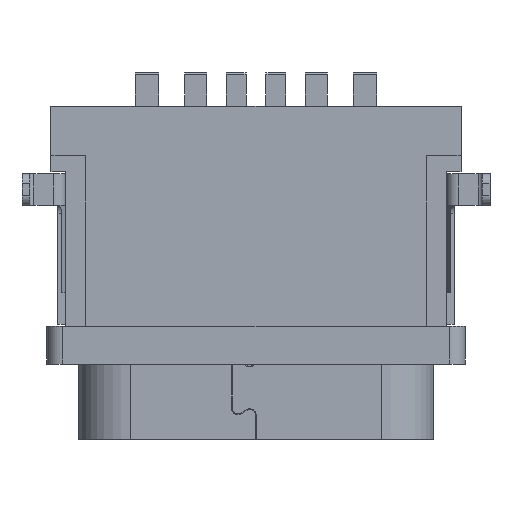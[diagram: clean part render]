
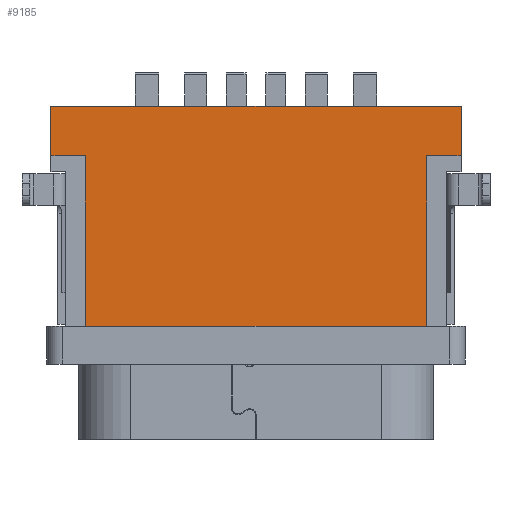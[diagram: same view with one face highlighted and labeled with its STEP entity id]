
A CAD part, front view. The second image highlights one B-rep face of the part: STEP entity #9185.
In plain terms, the highlighted planar face has unit normal (0, -1, 0).
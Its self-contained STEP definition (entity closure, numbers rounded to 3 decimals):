
#850 = DIRECTION ( 'NONE',  ( 0., 0., -1. ) ) ;
#856 = DIRECTION ( 'NONE',  ( 1., 0., 0. ) ) ;
#1059 = LINE ( 'NONE', #24944, #15001 ) ;
#1200 = DIRECTION ( 'NONE',  ( 0., 0., 1. ) ) ;
#1321 = CARTESIAN_POINT ( 'NONE',  ( 15., -2.23, 5.325 ) ) ;
#1373 = VERTEX_POINT ( 'NONE', #16814 ) ;
#2011 = CARTESIAN_POINT ( 'NONE',  ( 20.17, -2.23, 8.4 ) ) ;
#2705 = CARTESIAN_POINT ( 'NONE',  ( 9.83, -2.23, 7.15 ) ) ;
#2957 = DIRECTION ( 'NONE',  ( -1., 0., 0. ) ) ;
#3313 = VERTEX_POINT ( 'NONE', #4492 ) ;
#3697 = ORIENTED_EDGE ( 'NONE', *, *, #23874, .F. ) ;
#4492 = CARTESIAN_POINT ( 'NONE',  ( 9.83, -2.23, 7.15 ) ) ;
#4780 = ORIENTED_EDGE ( 'NONE', *, *, #6343, .T. ) ;
#4903 = LINE ( 'NONE', #15564, #8040 ) ;
#5003 = CARTESIAN_POINT ( 'NONE',  ( 9.83, -2.23, 8.4 ) ) ;
#5271 = VECTOR ( 'NONE', #850, 1000. ) ;
#5586 = ORIENTED_EDGE ( 'NONE', *, *, #6981, .T. ) ;
#5763 = EDGE_CURVE ( 'NONE', #14236, #9296, #4903, .T. ) ;
#5811 = VECTOR ( 'NONE', #9340, 1000. ) ;
#6343 = EDGE_CURVE ( 'NONE', #8305, #1373, #26903, .T. ) ;
#6981 = EDGE_CURVE ( 'NONE', #1373, #24496, #7070, .T. ) ;
#7070 = LINE ( 'NONE', #15741, #5811 ) ;
#7078 = CARTESIAN_POINT ( 'NONE',  ( 19.3, -2.23, 2.85 ) ) ;
#7225 = VECTOR ( 'NONE', #26134, 1000. ) ;
#7420 = CARTESIAN_POINT ( 'NONE',  ( 19.3, -2.23, 2.85 ) ) ;
#8040 = VECTOR ( 'NONE', #24794, 1000. ) ;
#8305 = VERTEX_POINT ( 'NONE', #14029 ) ;
#8496 = VECTOR ( 'NONE', #2957, 1000. ) ;
#8787 = LINE ( 'NONE', #17457, #7225 ) ;
#9185 = ADVANCED_FACE ( 'NONE', ( #21329 ), #23466, .T. ) ;
#9296 = VERTEX_POINT ( 'NONE', #2011 ) ;
#9340 = DIRECTION ( 'NONE',  ( 1., 0., 0. ) ) ;
#9452 = EDGE_CURVE ( 'NONE', #3313, #19553, #22445, .T. ) ;
#9555 = ORIENTED_EDGE ( 'NONE', *, *, #9452, .T. ) ;
#9878 = AXIS2_PLACEMENT_3D ( 'NONE', #1321, #9975, #18647 ) ;
#9975 = DIRECTION ( 'NONE',  ( 0., -1., 0. ) ) ;
#11070 = EDGE_CURVE ( 'NONE', #9296, #24496, #8787, .T. ) ;
#12225 = EDGE_CURVE ( 'NONE', #8305, #26034, #26979, .T. ) ;
#13033 = VECTOR ( 'NONE', #856, 1000. ) ;
#14029 = CARTESIAN_POINT ( 'NONE',  ( 19.3, -2.23, 2.85 ) ) ;
#14236 = VERTEX_POINT ( 'NONE', #5003 ) ;
#14502 = ORIENTED_EDGE ( 'NONE', *, *, #16090, .T. ) ;
#14620 = ORIENTED_EDGE ( 'NONE', *, *, #12225, .F. ) ;
#14876 = VECTOR ( 'NONE', #16097, 1000. ) ;
#15001 = VECTOR ( 'NONE', #1200, 1000. ) ;
#15564 = CARTESIAN_POINT ( 'NONE',  ( 9.83, -2.23, 8.4 ) ) ;
#15741 = CARTESIAN_POINT ( 'NONE',  ( 19.3, -2.23, 7.15 ) ) ;
#16090 = EDGE_CURVE ( 'NONE', #19553, #26034, #26720, .T. ) ;
#16097 = DIRECTION ( 'NONE',  ( 0., 0., 1. ) ) ;
#16814 = CARTESIAN_POINT ( 'NONE',  ( 19.3, -2.23, 7.15 ) ) ;
#17457 = CARTESIAN_POINT ( 'NONE',  ( 20.17, -2.23, 8.4 ) ) ;
#18647 = DIRECTION ( 'NONE',  ( 0., 0., -1. ) ) ;
#19187 = ORIENTED_EDGE ( 'NONE', *, *, #11070, .F. ) ;
#19553 = VERTEX_POINT ( 'NONE', #27911 ) ;
#21256 = EDGE_LOOP ( 'NONE', ( #9555, #14502, #14620, #4780, #5586, #19187, #27301, #3697 ) ) ;
#21329 = FACE_OUTER_BOUND ( 'NONE', #21256, .T. ) ;
#22445 = LINE ( 'NONE', #2705, #13033 ) ;
#23466 = PLANE ( 'NONE',  #9878 ) ;
#23874 = EDGE_CURVE ( 'NONE', #3313, #14236, #1059, .T. ) ;
#24496 = VERTEX_POINT ( 'NONE', #24973 ) ;
#24582 = CARTESIAN_POINT ( 'NONE',  ( 10.7, -2.23, 7.15 ) ) ;
#24794 = DIRECTION ( 'NONE',  ( 1., 0., 0. ) ) ;
#24944 = CARTESIAN_POINT ( 'NONE',  ( 9.83, -2.23, 7.15 ) ) ;
#24973 = CARTESIAN_POINT ( 'NONE',  ( 20.17, -2.23, 7.15 ) ) ;
#26034 = VERTEX_POINT ( 'NONE', #26807 ) ;
#26134 = DIRECTION ( 'NONE',  ( 0., 0., -1. ) ) ;
#26720 = LINE ( 'NONE', #24582, #5271 ) ;
#26807 = CARTESIAN_POINT ( 'NONE',  ( 10.7, -2.23, 2.85 ) ) ;
#26903 = LINE ( 'NONE', #7420, #14876 ) ;
#26979 = LINE ( 'NONE', #7078, #8496 ) ;
#27301 = ORIENTED_EDGE ( 'NONE', *, *, #5763, .F. ) ;
#27911 = CARTESIAN_POINT ( 'NONE',  ( 10.7, -2.23, 7.15 ) ) ;
